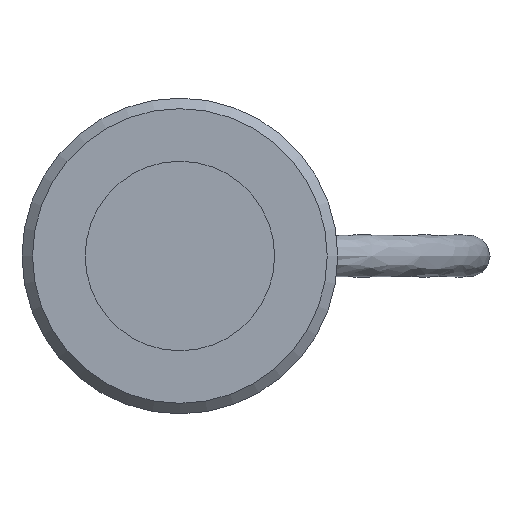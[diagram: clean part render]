
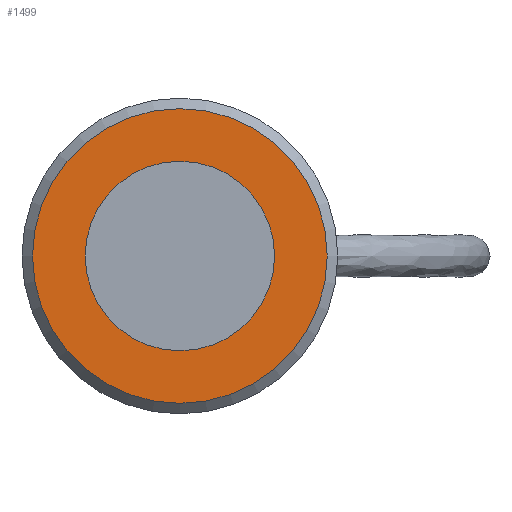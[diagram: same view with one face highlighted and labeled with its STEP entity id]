
A CAD part, left-side view. The second image highlights one B-rep face of the part: STEP entity #1499.
In plain terms, the highlighted planar face has unit normal (-1, 0, 0).
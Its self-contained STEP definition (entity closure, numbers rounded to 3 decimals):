
#105=FACE_BOUND('',#331,.T.);
#203=FACE_OUTER_BOUND('',#330,.T.);
#330=EDGE_LOOP('',(#1331));
#331=EDGE_LOOP('',(#1332));
#614=CIRCLE('',#1709,14.);
#615=CIRCLE('',#1711,9.);
#743=VERTEX_POINT('',#3158);
#744=VERTEX_POINT('',#3162);
#940=EDGE_CURVE('',#743,#743,#614,.T.);
#941=EDGE_CURVE('',#744,#744,#615,.T.);
#1331=ORIENTED_EDGE('',*,*,#940,.T.);
#1332=ORIENTED_EDGE('',*,*,#941,.F.);
#1399=PLANE('',#1710);
#1499=ADVANCED_FACE('',(#203,#105),#1399,.T.);
#1709=AXIS2_PLACEMENT_3D('',#3160,#2185,#2186);
#1710=AXIS2_PLACEMENT_3D('',#3161,#2187,#2188);
#1711=AXIS2_PLACEMENT_3D('',#3163,#2189,#2190);
#2185=DIRECTION('center_axis',(-1.,0.,0.));
#2186=DIRECTION('ref_axis',(0.,0.,1.));
#2187=DIRECTION('center_axis',(-1.,0.,0.));
#2188=DIRECTION('ref_axis',(0.,0.,1.));
#2189=DIRECTION('center_axis',(-1.,0.,0.));
#2190=DIRECTION('ref_axis',(0.,0.,1.));
#3158=CARTESIAN_POINT('',(269.834,62.56,-0.001));
#3160=CARTESIAN_POINT('Origin',(269.834,48.56,-0.001));
#3161=CARTESIAN_POINT('Origin',(269.834,39.56,-0.001));
#3162=CARTESIAN_POINT('',(269.834,57.56,-0.001));
#3163=CARTESIAN_POINT('Origin',(269.834,48.56,-0.001));
